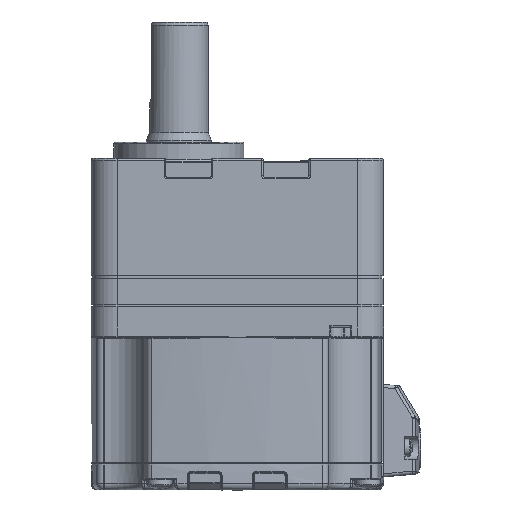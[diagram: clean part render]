
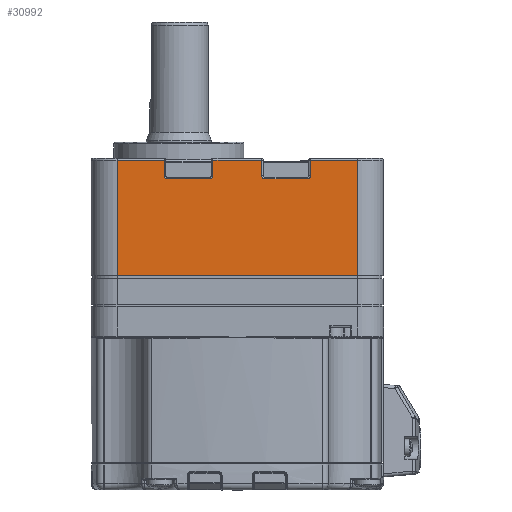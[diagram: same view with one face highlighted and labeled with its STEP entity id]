
A CAD part, left-side view. The second image highlights one B-rep face of the part: STEP entity #30992.
In plain terms, the highlighted planar face has unit normal (-1, 0, 0).
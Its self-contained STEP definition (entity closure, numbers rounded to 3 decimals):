
#27186=CARTESIAN_POINT('',(16.389,98.667,203.063));
#27187=VERTEX_POINT('',#27186);
#27197=CARTESIAN_POINT('',(16.389,98.667,167.563));
#27198=VERTEX_POINT('',#27197);
#27199=CARTESIAN_POINT('',(16.389,98.667,203.063));
#27200=DIRECTION('',(0.0,0.0,-1.0));
#27201=VECTOR('',#27200,35.5);
#27202=LINE('',#27199,#27201);
#27203=EDGE_CURVE('',#27187,#27198,#27202,.T.);
#27230=CARTESIAN_POINT('',(16.389,172.667,167.563));
#27231=VERTEX_POINT('',#27230);
#27270=CARTESIAN_POINT('',(16.389,172.667,167.563));
#27271=DIRECTION('',(0.0,-1.0,0.0));
#27272=VECTOR('',#27271,74.);
#27273=LINE('',#27270,#27272);
#27274=EDGE_CURVE('',#27231,#27198,#27273,.T.);
#27296=CARTESIAN_POINT('',(16.389,172.667,203.063));
#27297=VERTEX_POINT('',#27296);
#27312=CARTESIAN_POINT('',(16.389,172.667,167.563));
#27313=DIRECTION('',(0.0,0.0,1.0));
#27314=VECTOR('',#27313,35.5);
#27315=LINE('',#27312,#27314);
#27316=EDGE_CURVE('',#27231,#27297,#27315,.T.);
#28660=CARTESIAN_POINT('',(16.389,158.167,203.063));
#28661=VERTEX_POINT('',#28660);
#28671=CARTESIAN_POINT('',(16.389,158.167,198.263));
#28672=VERTEX_POINT('',#28671);
#28673=CARTESIAN_POINT('',(16.389,158.167,203.063));
#28674=DIRECTION('',(0.0,0.0,-1.0));
#28675=VECTOR('',#28674,4.8);
#28676=LINE('',#28673,#28675);
#28677=EDGE_CURVE('',#28661,#28672,#28676,.T.);
#28701=CARTESIAN_POINT('',(16.389,157.167,197.263));
#28702=VERTEX_POINT('',#28701);
#28703=CARTESIAN_POINT('',(16.389,157.167,198.263));
#28704=DIRECTION('',(-1.0,0.,0.));
#28705=DIRECTION('',(0.,0.707,-0.707));
#28706=AXIS2_PLACEMENT_3D('',#28703,#28704,#28705);
#28707=CIRCLE('',#28706,1.0);
#28708=EDGE_CURVE('',#28672,#28702,#28707,.T.);
#28727=CARTESIAN_POINT('',(16.389,144.167,197.263));
#28728=VERTEX_POINT('',#28727);
#28729=CARTESIAN_POINT('',(16.389,157.167,197.263));
#28730=DIRECTION('',(0.0,-1.0,0.0));
#28731=VECTOR('',#28730,13.0);
#28732=LINE('',#28729,#28731);
#28733=EDGE_CURVE('',#28702,#28728,#28732,.T.);
#28752=CARTESIAN_POINT('',(16.389,143.167,198.263));
#28753=VERTEX_POINT('',#28752);
#28754=CARTESIAN_POINT('',(16.389,144.167,198.263));
#28755=DIRECTION('',(-1.0,0.,0.));
#28756=DIRECTION('',(0.,-0.707,-0.707));
#28757=AXIS2_PLACEMENT_3D('',#28754,#28755,#28756);
#28758=CIRCLE('',#28757,1.0);
#28759=EDGE_CURVE('',#28728,#28753,#28758,.T.);
#28777=CARTESIAN_POINT('',(16.389,143.167,203.063));
#28778=VERTEX_POINT('',#28777);
#28788=CARTESIAN_POINT('',(16.389,143.167,198.263));
#28789=DIRECTION('',(0.0,0.0,1.0));
#28790=VECTOR('',#28789,4.8);
#28791=LINE('',#28788,#28790);
#28792=EDGE_CURVE('',#28753,#28778,#28791,.T.);
#30031=CARTESIAN_POINT('',(16.389,128.167,203.063));
#30032=VERTEX_POINT('',#30031);
#30042=CARTESIAN_POINT('',(16.389,128.167,198.263));
#30043=VERTEX_POINT('',#30042);
#30044=CARTESIAN_POINT('',(16.389,128.167,203.063));
#30045=DIRECTION('',(0.0,0.0,-1.0));
#30046=VECTOR('',#30045,4.8);
#30047=LINE('',#30044,#30046);
#30048=EDGE_CURVE('',#30032,#30043,#30047,.T.);
#30072=CARTESIAN_POINT('',(16.389,127.167,197.263));
#30073=VERTEX_POINT('',#30072);
#30074=CARTESIAN_POINT('',(16.389,127.167,198.263));
#30075=DIRECTION('',(-1.0,0.,0.));
#30076=DIRECTION('',(0.,0.707,-0.707));
#30077=AXIS2_PLACEMENT_3D('',#30074,#30075,#30076);
#30078=CIRCLE('',#30077,1.0);
#30079=EDGE_CURVE('',#30043,#30073,#30078,.T.);
#30098=CARTESIAN_POINT('',(16.389,114.167,197.263));
#30099=VERTEX_POINT('',#30098);
#30100=CARTESIAN_POINT('',(16.389,127.167,197.263));
#30101=DIRECTION('',(0.0,-1.0,0.0));
#30102=VECTOR('',#30101,13.);
#30103=LINE('',#30100,#30102);
#30104=EDGE_CURVE('',#30073,#30099,#30103,.T.);
#30123=CARTESIAN_POINT('',(16.389,113.167,198.263));
#30124=VERTEX_POINT('',#30123);
#30125=CARTESIAN_POINT('',(16.389,114.167,198.263));
#30126=DIRECTION('',(-1.0,0.,0.));
#30127=DIRECTION('',(0.,-0.707,-0.707));
#30128=AXIS2_PLACEMENT_3D('',#30125,#30126,#30127);
#30129=CIRCLE('',#30128,1.0);
#30130=EDGE_CURVE('',#30099,#30124,#30129,.T.);
#30522=CARTESIAN_POINT('',(16.389,172.667,203.063));
#30523=DIRECTION('',(0.0,-1.0,0.0));
#30524=VECTOR('',#30523,14.5);
#30525=LINE('',#30522,#30524);
#30526=EDGE_CURVE('',#27297,#28661,#30525,.T.);
#30832=CARTESIAN_POINT('',(16.389,143.167,203.063));
#30833=DIRECTION('',(0.0,-1.0,0.0));
#30834=VECTOR('',#30833,15.0);
#30835=LINE('',#30832,#30834);
#30836=EDGE_CURVE('',#28778,#30032,#30835,.T.);
#30944=CARTESIAN_POINT('',(16.389,113.167,203.063));
#30945=VERTEX_POINT('',#30944);
#30955=CARTESIAN_POINT('',(16.389,113.167,198.263));
#30956=DIRECTION('',(0.0,0.0,1.0));
#30957=VECTOR('',#30956,4.8);
#30958=LINE('',#30955,#30957);
#30959=EDGE_CURVE('',#30124,#30945,#30958,.T.);
#30964=CARTESIAN_POINT('',(16.389,180.667,203.563));
#30965=DIRECTION('',(-1.0,0.0,0.0));
#30966=DIRECTION('',(0.0,0.0,-1.0));
#30967=AXIS2_PLACEMENT_3D('',#30964,#30965,#30966);
#30968=PLANE('',#30967);
#30969=CARTESIAN_POINT('',(16.389,113.167,203.063));
#30970=DIRECTION('',(0.0,-1.0,0.0));
#30971=VECTOR('',#30970,14.5);
#30972=LINE('',#30969,#30971);
#30973=EDGE_CURVE('',#30945,#27187,#30972,.T.);
#30974=ORIENTED_EDGE('',*,*,#30973,.F.);
#30975=ORIENTED_EDGE('',*,*,#30959,.F.);
#30976=ORIENTED_EDGE('',*,*,#30130,.F.);
#30977=ORIENTED_EDGE('',*,*,#30104,.F.);
#30978=ORIENTED_EDGE('',*,*,#30079,.F.);
#30979=ORIENTED_EDGE('',*,*,#30048,.F.);
#30980=ORIENTED_EDGE('',*,*,#30836,.F.);
#30981=ORIENTED_EDGE('',*,*,#28792,.F.);
#30982=ORIENTED_EDGE('',*,*,#28759,.F.);
#30983=ORIENTED_EDGE('',*,*,#28733,.F.);
#30984=ORIENTED_EDGE('',*,*,#28708,.F.);
#30985=ORIENTED_EDGE('',*,*,#28677,.F.);
#30986=ORIENTED_EDGE('',*,*,#30526,.F.);
#30987=ORIENTED_EDGE('',*,*,#27316,.F.);
#30988=ORIENTED_EDGE('',*,*,#27274,.T.);
#30989=ORIENTED_EDGE('',*,*,#27203,.F.);
#30990=EDGE_LOOP('',(#30974,#30975,#30976,#30977,#30978,#30979,#30980,#30981,#30982,#30983,#30984,#30985,#30986,#30987,#30988,#30989));
#30991=FACE_OUTER_BOUND('',#30990,.T.);
#30992=ADVANCED_FACE('',(#30991),#30968,.T.);
